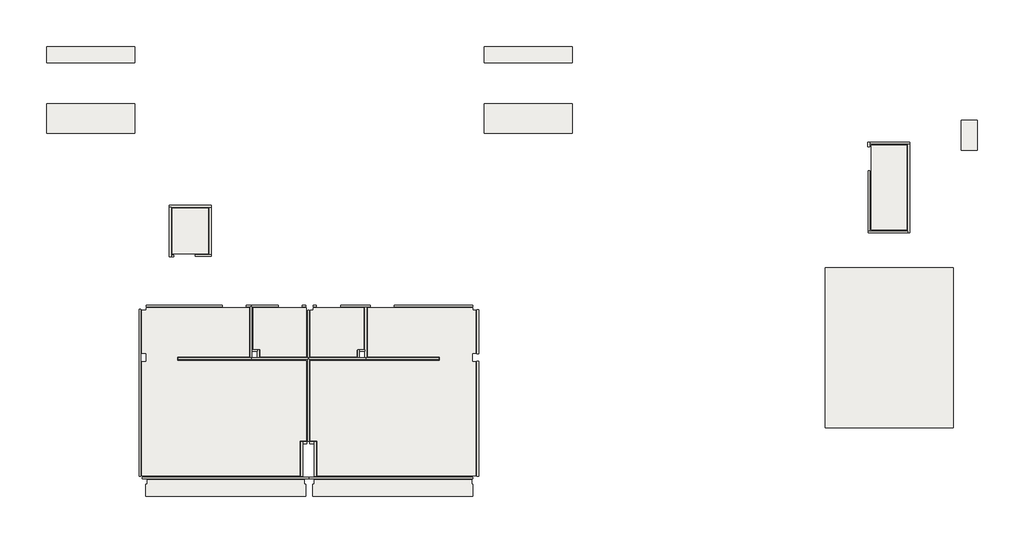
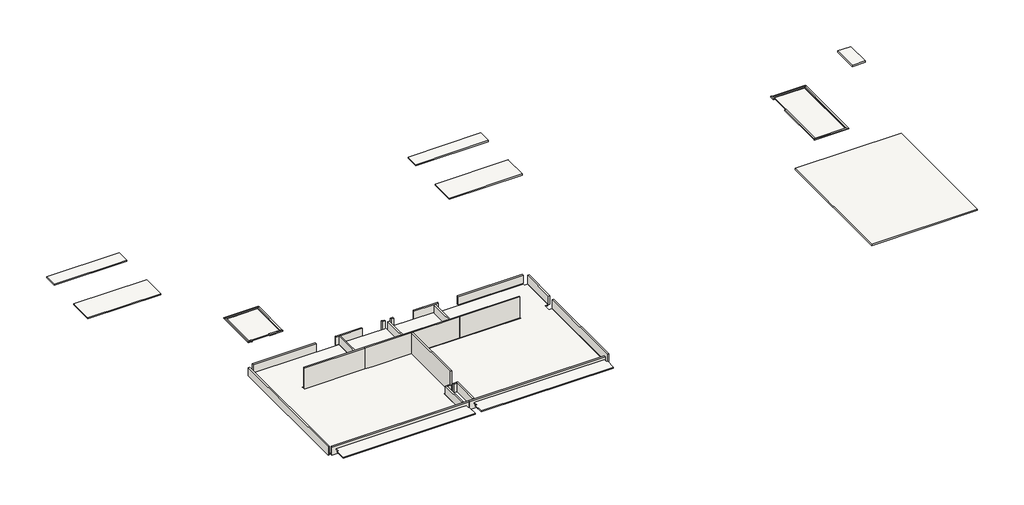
# One storey: 38 walls, 14 slabs.
"""IFC4 building model written with IfcOpenShell, lengths in millimetres."""

from ifc_helpers import new_model, si_unit, frame, origin, place, context, project, spatial, polyline, outline, extrude, faceted_brep, element, save

model = new_model("IFC4")

# Units and contexts
model_context = context("Model", 3, world=origin())
ifc_project = project(units=[si_unit("LENGTHUNIT", "METRE", prefix="MILLI")], contexts=[model_context])

# Site, building, storey
site = spatial("IfcSite", under=ifc_project)
building = spatial("IfcBuilding", under=site)
storey = spatial("IfcBuildingStorey", under=building, Name="PLANTA DE IMPERMEABILIZAÇÃO - TERREO", Elevation=300.0)

# Slabs
placement = place(None, origin())
element("IfcSlab", 1, ObjectType="Impermeabilização 08 - Áreas frias", at=placement, inside=storey, context=model_context, shape_type="SweptSolid", body=[
    extrude(outline(polyline([(-4118.1166467, -8187.8257111), (-4291.6276811, -8187.8257111), (-4291.6276811, -3918.8418218), (-4115.6166467, -3918.8418218), (-4115.6166467, -3602.8418218), (-4291.6276811, -3602.8418218), (-4291.6276811, -1993.8418218), (-4128.1166467, -1993.8418218), (-4128.1166467, -1905.8410329), (-273.6148571, -1905.8410329), (-273.6148571, -3478.3410329), (-273.6148571, -3730.8410329), (-2963.6148571, -3730.8410329), (-2963.6148571, -3880.8410329), (-198.6148571, -3880.8410329), (128.8851429, -3880.8410329), (1876.3851429, -3880.8410329), (1876.3851429, -6885.8410329), (1631.3851429, -6885.8410329), (1631.3851429, -8187.8257111), (-4118.1166467, -8187.8257111)])), frame((0.0, 0.0, 279.5), z_axis=(0.0, 0.0, 1.0), x_axis=(1.0, 0.0, 0.0)), (0.0, 0.0, 1.0), 53.0),
])
element("IfcSlab", 2, ObjectType="Impermeabilização 08 - Áreas frias", at=placement, inside=storey, context=model_context, shape_type="SweptSolid", body=[
    extrude(outline(polyline([(-123.6148571, -1904.6946411), (1843.3833533, -1904.6946411), (1876.3851429, -1904.6946411), (1876.3851429, -1985.19543), (1876.3851429, -3729.6946411), (141.3851429, -3729.6946411), (141.3851429, -3464.6946411), (-123.6148571, -3464.6946411), (-123.6148571, -1904.6946411)])), frame((0.0, 0.0, 300.0), z_axis=(0.0, 0.0, 1.0), x_axis=(1.0, 0.0, 0.0)), (0.0, 0.0, 1.0), 53.0),
])
element("IfcSlab", 3, ObjectType="Impermeabilização 08 - Áreas frias", at=placement, inside=storey, context=model_context, shape_type="SweptSolid", body=[
    extrude(outline(polyline([(2131.8833533, -1905.8410329), (4026.3851429, -1905.8410329), (4026.3851429, -3465.8410329), (3761.3851429, -3465.8410329), (3761.3851429, -3730.8410329), (2026.3851429, -3730.8410329), (2026.3851429, -1998.8418218), (2131.8833533, -1998.8418218), (2131.8833533, -1905.8410329)])), frame((0.0, 0.0, 302.0), z_axis=(0.0, 0.0, 1.0), x_axis=(1.0, 0.0, 0.0)), (0.0, 0.0, 1.0), 53.0),
])
element("IfcSlab", 4, ObjectType="Impermeabilização 08 - Áreas frias", at=placement, inside=storey, context=model_context, shape_type="SweptSolid", body=[
    extrude(outline(polyline([(8090.8833533, -8187.8257111), (2276.3851429, -8187.8257111), (2276.3851429, -6885.8410329), (2026.3851429, -6885.8410329), (2026.3851429, -3880.8410329), (3773.8851429, -3880.8410329), (4101.3851429, -3880.8410329), (6866.3851429, -3880.8410329), (6866.3851429, -3730.8410329), (4176.3851429, -3730.8410329), (4176.3851429, -3478.3410329), (4176.3851429, -1905.8410329), (8100.8797184, -1905.8410329), (8100.8797184, -1993.8418218), (8226.7851708, -1993.8418218), (8226.7851708, -3602.8418218), (8088.3797184, -3602.8418218), (8088.3797184, -3918.8418218), (8226.7851708, -3918.8418218), (8226.7851708, -8187.8257111), (8090.8833533, -8187.8257111)])), frame((0.0, 0.0, 247.0), z_axis=(0.0, 0.0, 1.0), x_axis=(1.0, 0.0, 0.0)), (0.0, 0.0, 1.0), 53.0),
])
element("IfcSlab", 5, ObjectType="Impermeabilização 08 - Áreas frias", at=placement, inside=storey, context=model_context, shape_type="SweptSolid", body=[
    extrude(outline(polyline([(2121.3833533, -8965.8410329), (2121.3833533, -8513.8418218), (2169.3833533, -8513.8418218), (2169.3833533, -8347.8257111), (2263.8851429, -8347.8257111), (8068.3833533, -8347.8257111), (8068.3833533, -8513.8418218), (8116.3833533, -8513.8418218), (8116.3833533, -8965.8410329), (2121.3833533, -8965.8410329)])), frame((0.0, 0.0, 545.0), z_axis=(0.0, 0.0, 1.0), x_axis=(1.0, 0.0, 0.0)), (0.0, 0.0, 1.0), 53.0),
])
element("IfcSlab", 6, ObjectType="Impermeabilização 08 - Áreas frias", at=placement, inside=storey, context=model_context, shape_type="SweptSolid", body=[
    extrude(outline(polyline([(-4143.6166467, -8964.8441705), (-4143.6166467, -8512.8449593), (-4095.6166467, -8512.8449593), (-4095.6166467, -8346.8288487), (1643.8851429, -8346.8288487), (1803.3833533, -8346.8288487), (1803.3833533, -8512.8449593), (1851.3833533, -8512.8449593), (1851.3833533, -8964.8441705), (-4143.6166467, -8964.8441705)])), frame((0.0, 0.0, 521.1371705), z_axis=(0.0, 0.0, 1.0), x_axis=(1.0, 0.0, 0.0)), (0.0, 0.0, 1.0), 53.0),
])
element("IfcSlab", 7, ObjectType="Impermeabilização 08 - Áreas frias", at=placement, inside=storey, context=model_context, shape_type="SweptSolid", body=[
    extrude(outline(polyline([(-3153.6148292, 120.3896127), (-3153.6148292, 1489.1589671), (-3153.6148292, 1544.1589671), (-3153.6148292, 1836.1405147), (-2774.6166467, 1836.1405147), (-2582.6166467, 1836.1405147), (-1793.6148292, 1836.1405147), (-1793.6148292, 120.3896127), (-3153.6148292, 120.3896127)])), frame((0.0, 0.0, 247.0), z_axis=(0.0, 0.0, 1.0), x_axis=(1.0, 0.0, 0.0)), (0.0, 0.0, 1.0), 53.0),
])
element("IfcSlab", 8, ObjectType="Impermeabilização 08 - Áreas frias", at=placement, inside=storey, context=model_context, shape_type="SweptSolid", body=[
    extrude(outline(polyline([(-4560.1166467, 4641.6589671), (-7861.1148292, 4641.6589671), (-7861.1148292, 5749.1589671), (-4560.1166467, 5749.1589671), (-4560.1166467, 4641.6589671)])), frame((0.0, 0.0, 247.0), z_axis=(0.0, 0.0, 1.0), x_axis=(1.0, 0.0, 0.0)), (0.0, 0.0, 1.0), 53.0),
])
element("IfcSlab", 9, ObjectType="Impermeabilização 08 - Áreas frias", at=placement, inside=storey, context=model_context, shape_type="SweptSolid", body=[
    extrude(outline(polyline([(-7861.1148292, 7887.6581782), (-4560.1166467, 7887.6581782), (-4560.1166467, 7843.1581782), (-4560.1166467, 7807.058262), (-4560.1166467, 7289.1589671), (-7861.1148292, 7289.1589671), (-7861.1148292, 7887.6581782)])), frame((0.0, 0.0, 247.0), z_axis=(0.0, 0.0, 1.0), x_axis=(1.0, 0.0, 0.0)), (0.0, 0.0, 1.0), 53.0),
])
element("IfcSlab", 10, ObjectType="Impermeabilização 08 - Áreas frias", at=placement, inside=storey, context=model_context, shape_type="SweptSolid", body=[
    extrude(outline(polyline([(11833.8851708, 7289.1589671), (8532.8833533, 7289.1589671), (8532.8833533, 7887.6581782), (11833.8851708, 7887.6581782), (11833.8851708, 7289.1589671)])), frame((0.0, 0.0, 247.0), z_axis=(0.0, 0.0, 1.0), x_axis=(1.0, 0.0, 0.0)), (0.0, 0.0, 1.0), 53.0),
])
element("IfcSlab", 11, ObjectType="Impermeabilização 08 - Áreas frias", at=placement, inside=storey, context=model_context, shape_type="SweptSolid", body=[
    extrude(outline(polyline([(11833.8851708, 5741.6589671), (11833.8851708, 4641.6589671), (8535.7551617, 4641.6589671), (8535.7551617, 5749.1589671), (11833.8851708, 5749.1589671), (11833.8851708, 5741.6589671)])), frame((0.0, 0.0, 247.0), z_axis=(0.0, 0.0, 1.0), x_axis=(1.0, 0.0, 0.0)), (0.0, 0.0, 1.0), 53.0),
])
element("IfcSlab", 12, ObjectType="Impermeabilização 08 - Áreas frias", at=placement, inside=storey, context=model_context, shape_type="SweptSolid", body=[
    extrude(outline(polyline([(24371.3851708, 1014.1589671), (23041.3851708, 1014.1589671), (23041.3851708, 4194.1589671), (24371.3851708, 4194.1589671), (24371.3851708, 1014.1589671)])), frame((0.0, 0.0, 247.0), z_axis=(0.0, 0.0, 1.0), x_axis=(1.0, 0.0, 0.0)), (0.0, 0.0, 1.0), 53.0),
])
element("IfcSlab", 13, ObjectType="Impermeabilização 02 - Reservatórios enterrados inferiores ou piscina enterrada", at=placement, inside=storey, context=model_context, shape_type="SweptSolid", body=[
    extrude(outline(polyline([(26110.1351276, -395.7484772), (26110.1351276, -6395.7484772), (21311.3851276, -6395.7484772), (21311.3851276, -395.7484772), (26110.1351276, -395.7484772)])), frame((0.0, 0.0, 245.0), z_axis=(0.0, 0.0, 1.0), x_axis=(1.0, 0.0, 0.0)), (0.0, 0.0, 1.0), 55.0),
])
element("IfcSlab", 14, ObjectType="Impermeabilização 01 - Lajes de cobertura ou terraço", at=placement, inside=storey, context=model_context, shape_type="SweptSolid", body=[
    extrude(outline(polyline([(27022.421636, 5123.5758232), (27022.421636, 3992.4073844), (26422.421636, 3992.4073844), (26422.421636, 5123.5758232), (27022.421636, 5123.5758232)])), frame((0.0, 0.0, 725.0), z_axis=(0.0, 0.0, 1.0), x_axis=(1.0, 0.0, 0.0)), (0.0, 0.0, 1.0), 75.0),
])

# Walls
element("IfcWall", 15, ObjectType="Impermeabilização 08 - Áreas frias", at=placement, inside=storey, context=model_context, shape_type="Brep", body=[
    faceted_brep([(22983.8851708, 4129.1589671, 300.0), (22983.8851708, 4236.6589671, 300.0), (22983.8851708, 4301.6589671, 300.0), (22983.8851708, 4301.6589671, 340.0), (22983.8851708, 4236.6589671, 340.0), (22983.8851708, 4129.1589671, 340.0), (22918.8851708, 4129.1589671, 300.0), (22918.8851708, 4129.1589671, 340.0), (22918.8851708, 4301.6589671, 340.0), (22918.8851708, 4301.6589671, 300.0)], [[[0, 1, 2, 3, 4, 5]], [[6, 7, 8, 9]], [[2, 1, 0, 6, 9]], [[5, 4, 3, 8, 7]], [[0, 5, 7, 6]], [[3, 2, 9, 8]]]),
])
element("IfcWall", 16, ObjectType="Impermeabilização 08 - Áreas frias", at=placement, inside=storey, context=model_context, shape_type="Brep", body=[
    faceted_brep([(22983.8851708, 4236.6589671, 300.0), (24418.8851708, 4236.6589671, 300.0), (24483.8851708, 4236.6589671, 300.0), (24483.8851708, 4236.6589671, 340.0), (24418.8851708, 4236.6589671, 340.0), (22983.8851708, 4236.6589671, 340.0), (22983.8851708, 4301.6589671, 300.0), (22983.8851708, 4301.6589671, 340.0), (24483.8851708, 4301.6589671, 340.0), (24483.8851708, 4301.6589671, 300.0)], [[[0, 1, 2, 3, 4, 5]], [[6, 7, 8, 9]], [[2, 1, 0, 6, 9]], [[5, 4, 3, 8, 7]], [[0, 5, 7, 6]], [[3, 2, 9, 8]]]),
])
element("IfcWall", 17, ObjectType="Impermeabilização 08 - Áreas frias", at=placement, inside=storey, context=model_context, shape_type="Brep", body=[
    faceted_brep([(24418.8851708, 4236.6589671, 300.0), (24418.8851708, 966.6589671, 300.0), (24418.8851708, 901.6589671, 300.0), (24418.8851708, 901.6589671, 340.0), (24418.8851708, 966.6589671, 340.0), (24418.8851708, 4236.6589671, 340.0), (24483.8851708, 4236.6589671, 300.0), (24483.8851708, 4236.6589671, 340.0), (24483.8851708, 901.6589671, 340.0), (24483.8851708, 901.6589671, 300.0)], [[[0, 1, 2, 3, 4, 5]], [[6, 7, 8, 9]], [[2, 1, 0, 6, 9]], [[5, 4, 3, 8, 7]], [[0, 5, 7, 6]], [[3, 2, 9, 8]]]),
])
element("IfcWall", 18, ObjectType="Impermeabilização 08 - Áreas frias", at=placement, inside=storey, context=model_context, shape_type="Brep", body=[
    faceted_brep([(24418.8851708, 966.6589671, 300.0), (22993.8851708, 966.6589671, 300.0), (22928.8851708, 966.6589671, 300.0), (22928.8851708, 966.6589671, 340.0), (22993.8851708, 966.6589671, 340.0), (24418.8851708, 966.6589671, 340.0), (24418.8851708, 901.6589671, 300.0), (24418.8851708, 901.6589671, 340.0), (22928.8851708, 901.6589671, 340.0), (22928.8851708, 901.6589671, 300.0)], [[[0, 1, 2, 3, 4, 5]], [[6, 7, 8, 9]], [[2, 1, 0, 6, 9]], [[5, 4, 3, 8, 7]], [[0, 5, 7, 6]], [[3, 2, 9, 8]]]),
])
element("IfcWall", 19, ObjectType="Impermeabilização 08 - Áreas frias", at=placement, inside=storey, context=model_context, shape_type="SweptSolid", body=[
    extrude(outline(polyline([(22993.8851708, 3234.1589671), (22993.8851708, 966.6589671), (22928.8851708, 966.6589671), (22928.8851708, 3234.1589671), (22993.8851708, 3234.1589671)])), frame((0.0, 0.0, 300.0), z_axis=(0.0, 0.0, 1.0), x_axis=(1.0, 0.0, 0.0)), (0.0, 0.0, 1.0), 40.0),
])
element("IfcWall", 20, ObjectType="Impermeabilização 08 - Áreas frias", at=placement, inside=storey, context=model_context, shape_type="Brep", body=[
    faceted_brep([(-1691.1148292, 1938.647991, 300.0), (-3261.1148292, 1938.647991, 300.0), (-3261.1148292, 1938.647991, 340.0), (-1691.1148292, 1938.647991, 340.0), (-1691.1148292, 1873.647991, 300.0), (-1691.1148292, 1873.647991, 340.0), (-1756.1148292, 1873.647991, 340.0), (-3196.1148292, 1873.647991, 340.0), (-3261.1148292, 1873.647991, 340.0), (-3261.1148292, 1873.647991, 300.0), (-3196.1148292, 1873.647991, 300.0), (-1756.1148292, 1873.647991, 300.0)], [[[0, 1, 2, 3]], [[4, 5, 6, 7, 8, 9, 10, 11]], [[1, 0, 4, 11, 10, 9]], [[3, 2, 8, 7, 6, 5]], [[2, 1, 9, 8]], [[0, 3, 5, 4]]]),
])
element("IfcWall", 21, ObjectType="Impermeabilização 08 - Áreas frias", at=placement, inside=storey, context=model_context, shape_type="Brep", body=[
    faceted_brep([(-3261.1148292, 1873.647991, 300.0), (-3261.1148292, 8.647991, 300.0), (-3261.1148292, 8.647991, 340.0), (-3261.1148292, 1873.647991, 340.0), (-3196.1148292, 1873.647991, 300.0), (-3196.1148292, 1873.647991, 340.0), (-3196.1148292, 73.647991, 340.0), (-3196.1148292, 8.647991, 340.0), (-3196.1148292, 8.647991, 300.0), (-3196.1148292, 73.647991, 300.0)], [[[0, 1, 2, 3]], [[4, 5, 6, 7, 8, 9]], [[1, 0, 4, 9, 8]], [[3, 2, 7, 6, 5]], [[0, 3, 5, 4]], [[2, 1, 8, 7]]]),
])
element("IfcWall", 22, ObjectType="Impermeabilização 08 - Áreas frias", at=placement, inside=storey, context=model_context, shape_type="SweptSolid", body=[
    extrude(outline(polyline([(-3091.1148292, 8.647991), (-3196.1148292, 8.647991), (-3196.1148292, 73.647991), (-3091.1148292, 73.647991), (-3091.1148292, 8.647991)])), frame((0.0, 0.0, 300.0), z_axis=(0.0, 0.0, 1.0), x_axis=(1.0, 0.0, 0.0)), (0.0, 0.0, 1.0), 40.0),
])
element("IfcWall", 23, ObjectType="Impermeabilização 08 - Áreas frias", at=placement, inside=storey, context=model_context, shape_type="Brep", body=[
    faceted_brep([(-2291.1148292, 20.3896127, 300.0), (-1691.1148292, 20.3896127, 300.0), (-1691.1148292, 20.3896127, 340.0), (-2291.1148292, 20.3896127, 340.0), (-2291.1148292, 85.3896127, 300.0), (-2291.1148292, 85.3896127, 340.0), (-1756.1148292, 85.3896127, 340.0), (-1691.1148292, 85.3896127, 340.0), (-1691.1148292, 85.3896127, 300.0), (-1756.1148292, 85.3896127, 300.0)], [[[0, 1, 2, 3]], [[4, 5, 6, 7, 8, 9]], [[1, 0, 4, 9, 8]], [[3, 2, 7, 6, 5]], [[0, 3, 5, 4]], [[2, 1, 8, 7]]]),
])
element("IfcWall", 24, ObjectType="Impermeabilização 08 - Áreas frias", at=placement, inside=storey, context=model_context, shape_type="SweptSolid", body=[
    extrude(outline(polyline([(-1691.1148292, 1873.647991), (-1691.1148292, 85.3896127), (-1756.1148292, 85.3896127), (-1756.1148292, 1873.647991), (-1691.1148292, 1873.647991)])), frame((0.0, 0.0, 300.0), z_axis=(0.0, 0.0, 1.0), x_axis=(1.0, 0.0, 0.0)), (0.0, 0.0, 1.0), 40.0),
])
element("IfcWall", 25, ObjectType="Impermeabilização 08 - Áreas frias", at=placement, inside=storey, context=model_context, shape_type="Brep", body=[
    faceted_brep([(-2934.8535902, -3838.3410329, 300.0), (-198.6148571, -3838.3410329, 300.0), (-198.6148571, -3838.3410329, 1300.0), (-2934.8535902, -3838.3410329, 1300.0), (-2934.8535902, -3773.3410329, 300.0), (-2934.8535902, -3773.3410329, 1300.0), (-198.6148571, -3773.3410329, 1300.0), (-198.6148571, -3773.3410329, 300.0), (-231.1148571, -3773.3410329, 300.0)], [[[0, 1, 2, 3]], [[4, 5, 6, 7, 8]], [[1, 0, 4, 8, 7]], [[3, 2, 6, 5]], [[0, 3, 5, 4]], [[1, 7, 6, 2]]]),
])
element("IfcWall", 26, ObjectType="Impermeabilização 08 - Áreas frias", at=placement, inside=storey, context=model_context, shape_type="SweptSolid", body=[
    extrude(outline(polyline([(-4326.6276811, -1958.8418218), (-4326.6276811, -8212.8257111), (-4391.6276811, -8212.8257111), (-4391.6276811, -1958.8418218), (-4326.6276811, -1958.8418218)])), frame((0.0, 0.0, 300.0), z_axis=(0.0, 0.0, 1.0), x_axis=(1.0, 0.0, 0.0)), (0.0, 0.0, 1.0), 400.0),
])
element("IfcWall", 27, ObjectType="Impermeabilização 08 - Áreas frias", at=placement, inside=storey, context=model_context, shape_type="SweptSolid", body=[
    extrude(outline(polyline([(-1273.6148571, -1870.8410329), (-4130.6166467, -1870.8410329), (-4130.6166467, -1805.8410329), (-1273.6148571, -1805.8410329), (-1273.6148571, -1870.8410329)])), frame((0.0, 0.0, 300.0), z_axis=(0.0, 0.0, 1.0), x_axis=(1.0, 0.0, 0.0)), (0.0, 0.0, 1.0), 400.0),
])
element("IfcWall", 28, ObjectType="Impermeabilização 08 - Áreas frias", at=placement, inside=storey, context=model_context, shape_type="Brep", body=[
    faceted_brep([(-373.6148571, -1870.8410329, 300.0), (-231.1148571, -1870.8410329, 300.0), (-198.6148571, -1870.8410329, 300.0), (-198.6148571, -1870.8410329, 700.0), (-231.1148571, -1870.8410329, 700.0), (-373.6148571, -1870.8410329, 700.0), (-373.6148571, -1805.8410329, 300.0), (-373.6148571, -1805.8410329, 700.0), (-198.6148571, -1805.8410329, 700.0), (-198.6148571, -1805.8410329, 300.0)], [[[0, 1, 2, 3, 4, 5]], [[6, 7, 8, 9]], [[2, 1, 0, 6, 9]], [[3, 2, 9, 8]], [[5, 4, 3, 8, 7]], [[0, 5, 7, 6]]]),
])
element("IfcWall", 29, ObjectType="Impermeabilização 08 - Áreas frias", at=placement, inside=storey, context=model_context, shape_type="SweptSolid", body=[
    extrude(outline(polyline([(1858.3833533, -1870.8410329), (1728.3833533, -1870.8410329), (1728.3833533, -1805.8410329), (1858.3833533, -1805.8410329), (1858.3833533, -1870.8410329)])), frame((0.0, 0.0, 300.0), z_axis=(0.0, 0.0, 1.0), x_axis=(1.0, 0.0, 0.0)), (0.0, 0.0, 1.0), 400.0),
])
element("IfcWall", 30, ObjectType="Impermeabilização 08 - Áreas frias", at=placement, inside=storey, context=model_context, shape_type="Brep", body=[
    faceted_brep([(1918.8851429, -1986.3418218, 300.0), (1918.8851429, -3773.3410329, 300.0), (1918.8851429, -3773.3410329, 700.0), (1918.8851429, -1986.3418218, 700.0), (1983.8851429, -1986.3418218, 300.0), (1983.8851429, -1986.3418218, 700.0), (1983.8851429, -3773.3410329, 700.0), (1983.8851429, -3773.3410329, 300.0), (1951.3851429, -3773.3410329, 300.0)], [[[0, 1, 2, 3]], [[4, 5, 6, 7]], [[1, 0, 4, 7, 8]], [[3, 2, 6, 5]], [[0, 3, 5, 4]], [[2, 1, 8, 7, 6]]]),
])
element("IfcWall", 31, ObjectType="Impermeabilização 08 - Áreas frias", at=placement, inside=storey, context=model_context, shape_type="SweptSolid", body=[
    extrude(outline(polyline([(2244.3833533, -1870.8410329), (2129.3833533, -1870.8410329), (2129.3833533, -1805.8410329), (2244.3833533, -1805.8410329), (2244.3833533, -1870.8410329)])), frame((0.0, 0.0, 300.0), z_axis=(0.0, 0.0, 1.0), x_axis=(1.0, 0.0, 0.0)), (0.0, 0.0, 1.0), 400.0),
])
element("IfcWall", 32, ObjectType="Impermeabilização 08 - Áreas frias", at=placement, inside=storey, context=model_context, shape_type="Brep", body=[
    faceted_brep([(3164.3833533, -1870.8410329, 300.0), (4068.8851429, -1870.8410329, 300.0), (4133.8851429, -1870.8410329, 300.0), (4276.3851429, -1870.8410329, 300.0), (4276.3851429, -1870.8410329, 700.0), (4133.8851429, -1870.8410329, 700.0), (4068.8851429, -1870.8410329, 700.0), (3164.3833533, -1870.8410329, 700.0), (3164.3833533, -1805.8410329, 300.0), (3164.3833533, -1805.8410329, 700.0), (4276.3851429, -1805.8410329, 700.0), (4276.3851429, -1805.8410329, 300.0)], [[[0, 1, 2, 3, 4, 5, 6, 7]], [[8, 9, 10, 11]], [[3, 2, 1, 0, 8, 11]], [[4, 3, 11, 10]], [[7, 6, 5, 4, 10, 9]], [[0, 7, 9, 8]]]),
])
element("IfcWall", 33, ObjectType="Impermeabilização 08 - Áreas frias", at=placement, inside=storey, context=model_context, shape_type="SweptSolid", body=[
    extrude(outline(polyline([(8116.3851429, -1870.8410329), (5176.3851429, -1870.8410329), (5176.3851429, -1805.8410329), (8116.3851429, -1805.8410329), (8116.3851429, -1870.8410329)])), frame((0.0, 0.0, 300.0), z_axis=(0.0, 0.0, 1.0), x_axis=(1.0, 0.0, 0.0)), (0.0, 0.0, 1.0), 400.0),
])
element("IfcWall", 34, ObjectType="Impermeabilização 08 - Áreas frias", at=placement, inside=storey, context=model_context, shape_type="Brep", body=[
    faceted_brep([(4068.8851429, -1870.8410329, 300.0), (4068.8851429, -3773.3410329, 300.0), (4068.8851429, -3773.3410329, 700.0), (4068.8851429, -1870.8410329, 700.0), (4133.8851429, -1870.8410329, 300.0), (4133.8851429, -1870.8410329, 700.0), (4133.8851429, -3773.3410329, 700.0), (4133.8851429, -3773.3410329, 300.0), (4101.3851429, -3773.3410329, 300.0)], [[[0, 1, 2, 3]], [[4, 5, 6, 7]], [[1, 0, 4, 7, 8]], [[3, 2, 6, 5]], [[2, 1, 8, 7, 6]], [[0, 3, 5, 4]]]),
])
element("IfcWall", 35, ObjectType="Impermeabilização 08 - Áreas frias", at=placement, inside=storey, context=model_context, shape_type="Brep", body=[
    faceted_brep([(-231.1148571, -1870.8410329, 300.0), (-231.1148571, -3773.3410329, 300.0), (-231.1148571, -3773.3410329, 700.0), (-231.1148571, -1870.8410329, 700.0), (-166.1148571, -1870.8410329, 300.0), (-166.1148571, -1870.8410329, 700.0), (-166.1148571, -3773.3410329, 700.0), (-166.1148571, -3773.3410329, 300.0), (-198.6148571, -1870.8410329, 300.0), (-198.6148571, -3773.3410329, 300.0), (-198.6148571, -1870.8410329, 700.0)], [[[0, 1, 2, 3]], [[4, 5, 6, 7]], [[1, 0, 8, 4, 7, 9]], [[3, 2, 6, 5, 10]], [[2, 1, 9, 7, 6]], [[0, 3, 10, 5, 4, 8]]]),
])
element("IfcWall", 36, ObjectType="Impermeabilização 08 - Áreas frias", at=placement, inside=storey, context=model_context, shape_type="SweptSolid", body=[
    extrude(outline(polyline([(8261.7851708, -3615.3418218), (8261.7851708, -1978.8418218), (8326.7851708, -1978.8418218), (8326.7851708, -3615.3418218), (8261.7851708, -3615.3418218)])), frame((0.0, 0.0, 300.0), z_axis=(0.0, 0.0, 1.0), x_axis=(1.0, 0.0, 0.0)), (0.0, 0.0, 1.0), 400.0),
])
element("IfcWall", 37, ObjectType="Impermeabilização 08 - Áreas frias", at=placement, inside=storey, context=model_context, shape_type="SweptSolid", body=[
    extrude(outline(polyline([(8261.7851708, -8223.5418218), (8261.7851708, -3903.8418218), (8326.7851708, -3903.8418218), (8326.7851708, -8223.5418218), (8261.7851708, -8223.5418218)])), frame((0.0, 0.0, 300.0), z_axis=(0.0, 0.0, 1.0), x_axis=(1.0, 0.0, 0.0)), (0.0, 0.0, 1.0), 400.0),
])
element("IfcWall", 38, ObjectType="Impermeabilização 08 - Áreas frias", at=placement, inside=storey, context=model_context, shape_type="Brep", body=[
    faceted_brep([(1918.8851429, -3838.3410329, 1300.0), (1918.8851429, -3838.3410329, 300.0), (1918.8851429, -6898.3410329, 300.0), (1918.8851429, -6898.3410329, 1300.0), (1983.8851429, -3838.3410329, 300.0), (1983.8851429, -3838.3410329, 1300.0), (1983.8851429, -6898.3410329, 1300.0), (1983.8851429, -6898.3410329, 300.0), (1951.3851429, -3838.3410329, 300.0), (1951.3851429, -3838.3410329, 1300.0)], [[[0, 1, 2, 3]], [[4, 5, 6, 7]], [[2, 1, 8, 4, 7]], [[3, 2, 7, 6]], [[0, 3, 6, 5, 9]], [[0, 9, 5, 4, 8, 1]]]),
])
element("IfcWall", 39, ObjectType="Impermeabilização 08 - Áreas frias", at=placement, inside=storey, context=model_context, shape_type="SweptSolid", body=[
    extrude(outline(polyline([(1956.3833533, -8307.8257111), (-4273.2666467, -8307.8257111), (-4273.2666467, -8242.8257111), (1956.3833533, -8242.8257111), (1956.3833533, -8307.8257111)])), frame((0.0, 0.0, 300.0), z_axis=(0.0, 0.0, 1.0), x_axis=(1.0, 0.0, 0.0)), (0.0, 0.0, 1.0), 400.0),
])
element("IfcWall", 40, ObjectType="Impermeabilização 08 - Áreas frias", at=placement, inside=storey, context=model_context, shape_type="Brep", body=[
    faceted_brep([(4101.3851429, -3838.3410329, 1300.0), (4101.3851429, -3838.3410329, 300.0), (6835.1464098, -3838.3410329, 300.0), (6835.1464098, -3838.3410329, 1300.0), (4101.3851429, -3773.3410329, 300.0), (4101.3851429, -3773.3410329, 1300.0), (6835.1464098, -3773.3410329, 1300.0), (6835.1464098, -3773.3410329, 300.0), (4133.8851429, -3773.3410329, 300.0)], [[[0, 1, 2, 3]], [[4, 5, 6, 7, 8]], [[2, 1, 4, 8, 7]], [[3, 2, 7, 6]], [[0, 3, 6, 5]], [[0, 5, 4, 1]]]),
])
element("IfcWall", 41, ObjectType="Impermeabilização 08 - Áreas frias", at=placement, inside=storey, context=model_context, shape_type="Brep", body=[
    faceted_brep([(1951.3851429, -3838.3410329, 1300.0), (1951.3851429, -3838.3410329, 300.0), (1983.8851429, -3838.3410329, 300.0), (4101.3851429, -3838.3410329, 300.0), (4101.3851429, -3838.3410329, 1300.0), (1983.8851429, -3838.3410329, 1300.0), (1951.3851429, -3773.3410329, 300.0), (1951.3851429, -3773.3410329, 1300.0), (4101.3851429, -3773.3410329, 1300.0), (4101.3851429, -3773.3410329, 300.0), (4068.8851429, -3773.3410329, 300.0), (1983.8851429, -3773.3410329, 300.0)], [[[0, 1, 2, 3, 4, 5]], [[6, 7, 8, 9, 10, 11]], [[3, 2, 1, 6, 11, 10, 9]], [[0, 5, 4, 8, 7]], [[3, 9, 8, 4]], [[0, 7, 6, 1]]]),
])
element("IfcWall", 42, ObjectType="Impermeabilização 08 - Áreas frias", at=placement, inside=storey, context=model_context, shape_type="Brep", body=[
    faceted_brep([(1733.8851429, -8212.8257111, 300.0), (1733.8851429, -6988.3410329, 300.0), (1733.8851429, -6923.3410329, 300.0), (1733.8851429, -6923.3410329, 700.0), (1733.8851429, -6988.3410329, 700.0), (1733.8851429, -8212.8257111, 700.0), (1668.8851429, -8212.8257111, 300.0), (1668.8851429, -8212.8257111, 700.0), (1668.8851429, -6923.3410329, 700.0), (1668.8851429, -6923.3410329, 300.0)], [[[0, 1, 2, 3, 4, 5]], [[6, 7, 8, 9]], [[2, 1, 0, 6, 9]], [[5, 4, 3, 8, 7]], [[0, 5, 7, 6]], [[3, 2, 9, 8]]]),
])
element("IfcWall", 43, ObjectType="Impermeabilização 08 - Áreas frias", at=placement, inside=storey, context=model_context, shape_type="SweptSolid", body=[
    extrude(outline(polyline([(1896.3851429, -6988.3410329), (1733.8851429, -6988.3410329), (1733.8851429, -6923.3410329), (1896.3851429, -6923.3410329), (1896.3851429, -6988.3410329)])), frame((0.0, 0.0, 300.0), z_axis=(0.0, 0.0, 1.0), x_axis=(1.0, 0.0, 0.0)), (0.0, 0.0, 1.0), 400.0),
])
element("IfcWall", 44, ObjectType="Impermeabilização 08 - Áreas frias", at=placement, inside=storey, context=model_context, shape_type="Brep", body=[
    faceted_brep([(2238.8851429, -8212.8257111, 300.0), (2238.8851429, -6923.3410329, 300.0), (2238.8851429, -6923.3410329, 700.0), (2238.8851429, -8212.8257111, 700.0), (2173.8851429, -8212.8257111, 300.0), (2173.8851429, -8212.8257111, 700.0), (2173.8851429, -6988.3410329, 700.0), (2173.8851429, -6923.3410329, 700.0), (2173.8851429, -6923.3410329, 300.0), (2173.8851429, -6988.3410329, 300.0)], [[[0, 1, 2, 3]], [[4, 5, 6, 7, 8, 9]], [[1, 0, 4, 9, 8]], [[3, 2, 7, 6, 5]], [[0, 3, 5, 4]], [[2, 1, 8, 7]]]),
])
element("IfcWall", 45, ObjectType="Impermeabilização 08 - Áreas frias", at=placement, inside=storey, context=model_context, shape_type="SweptSolid", body=[
    extrude(outline(polyline([(2006.3851429, -6923.3410329), (2173.8851429, -6923.3410329), (2173.8851429, -6988.3410329), (2006.3851429, -6988.3410329), (2006.3851429, -6923.3410329)])), frame((0.0, 0.0, 300.0), z_axis=(0.0, 0.0, 1.0), x_axis=(1.0, 0.0, 0.0)), (0.0, 0.0, 1.0), 400.0),
])
element("IfcWall", 46, ObjectType="Impermeabilização 08 - Áreas frias", at=placement, inside=storey, context=model_context, shape_type="Brep", body=[
    faceted_brep([(103.8851429, -3760.8410329, 300.0), (103.8851429, -3465.8410329, 300.0), (103.8851429, -3465.8410329, 700.0), (103.8851429, -3760.8410329, 700.0), (38.8851429, -3760.8410329, 300.0), (38.8851429, -3760.8410329, 700.0), (38.8851429, -3530.8410329, 700.0), (38.8851429, -3465.8410329, 700.0), (38.8851429, -3465.8410329, 300.0), (38.8851429, -3530.8410329, 300.0)], [[[0, 1, 2, 3]], [[4, 5, 6, 7, 8, 9]], [[1, 0, 4, 9, 8]], [[3, 2, 7, 6, 5]], [[0, 3, 5, 4]], [[2, 1, 8, 7]]]),
])
element("IfcWall", 47, ObjectType="Impermeabilização 08 - Áreas frias", at=placement, inside=storey, context=model_context, shape_type="SweptSolid", body=[
    extrude(outline(polyline([(-153.6148571, -3465.8410329), (38.8851429, -3465.8410329), (38.8851429, -3530.8410329), (-153.6148571, -3530.8410329), (-153.6148571, -3465.8410329)])), frame((0.0, 0.0, 300.0), z_axis=(0.0, 0.0, 1.0), x_axis=(1.0, 0.0, 0.0)), (0.0, 0.0, 1.0), 400.0),
])
element("IfcWall", 48, ObjectType="Impermeabilização 08 - Áreas frias", at=placement, inside=storey, context=model_context, shape_type="Brep", body=[
    faceted_brep([(3863.8851429, -3760.8410329, 300.0), (3863.8851429, -3538.3410056, 300.0), (3863.8851429, -3473.3410056, 300.0), (3863.8851429, -3473.3410056, 700.0), (3863.8851429, -3538.3410056, 700.0), (3863.8851429, -3760.8410329, 700.0), (3798.8851429, -3760.8410329, 300.0), (3798.8851429, -3760.8410329, 700.0), (3798.8851429, -3473.3410056, 700.0), (3798.8851429, -3473.3410056, 300.0)], [[[0, 1, 2, 3, 4, 5]], [[6, 7, 8, 9]], [[2, 1, 0, 6, 9]], [[5, 4, 3, 8, 7]], [[0, 5, 7, 6]], [[3, 2, 9, 8]]]),
])
element("IfcWall", 49, ObjectType="Impermeabilização 08 - Áreas frias", at=placement, inside=storey, context=model_context, shape_type="SweptSolid", body=[
    extrude(outline(polyline([(4056.3851429, -3538.3410056), (3863.8851429, -3538.3410056), (3863.8851429, -3473.3410056), (4056.3851429, -3473.3410056), (4056.3851429, -3538.3410056)])), frame((0.0, 0.0, 300.0), z_axis=(0.0, 0.0, 1.0), x_axis=(1.0, 0.0, 0.0)), (0.0, 0.0, 1.0), 400.0),
])
element("IfcWall", 50, ObjectType="Impermeabilização 08 - Áreas frias", at=placement, inside=storey, context=model_context, shape_type="SweptSolid", body=[
    extrude(outline(polyline([(8116.3833533, -8307.8257111), (1956.3833533, -8307.8257111), (1956.3833533, -8242.8257111), (8116.3833533, -8242.8257111), (8116.3833533, -8307.8257111)])), frame((0.0, 0.0, 300.0), z_axis=(0.0, 0.0, 1.0), x_axis=(1.0, 0.0, 0.0)), (0.0, 0.0, 1.0), 400.0),
])
element("IfcWall", 51, ObjectType="Impermeabilização 08 - Áreas frias", at=placement, inside=storey, context=model_context, shape_type="Brep", body=[
    faceted_brep([(-198.6148571, -3838.3410329, 1300.0), (-198.6148571, -3838.3410329, 300.0), (1918.8851429, -3838.3410329, 300.0), (1951.3851429, -3838.3410329, 300.0), (1951.3851429, -3838.3410329, 1300.0), (1918.8851429, -3838.3410329, 1300.0), (-198.6148571, -3773.3410329, 300.0), (-198.6148571, -3773.3410329, 1300.0), (1951.3851429, -3773.3410329, 1300.0), (1951.3851429, -3773.3410329, 300.0), (1918.8851429, -3773.3410329, 300.0), (-166.1148571, -3773.3410329, 300.0)], [[[0, 1, 2, 3, 4, 5]], [[6, 7, 8, 9, 10, 11]], [[3, 2, 1, 6, 11, 10, 9]], [[0, 5, 4, 8, 7]], [[3, 9, 8, 4]], [[0, 7, 6, 1]]]),
])
element("IfcWall", 52, ObjectType="Impermeabilização 08 - Áreas frias", at=placement, inside=storey, context=model_context, shape_type="Brep", body=[
    faceted_brep([(-198.6148571, -1870.8410329, 300.0), (-166.1148571, -1870.8410329, 300.0), (818.3833533, -1870.8410329, 300.0), (818.3833533, -1870.8410329, 700.0), (-166.1148571, -1870.8410329, 700.0), (-198.6148571, -1870.8410329, 700.0), (-198.6148571, -1805.8410329, 300.0), (-198.6148571, -1805.8410329, 700.0), (818.3833533, -1805.8410329, 700.0), (818.3833533, -1805.8410329, 300.0)], [[[0, 1, 2, 3, 4, 5]], [[6, 7, 8, 9]], [[2, 1, 0, 6, 9]], [[3, 2, 9, 8]], [[5, 4, 3, 8, 7]], [[0, 5, 7, 6]]]),
])

save(model, "model.ifc")
